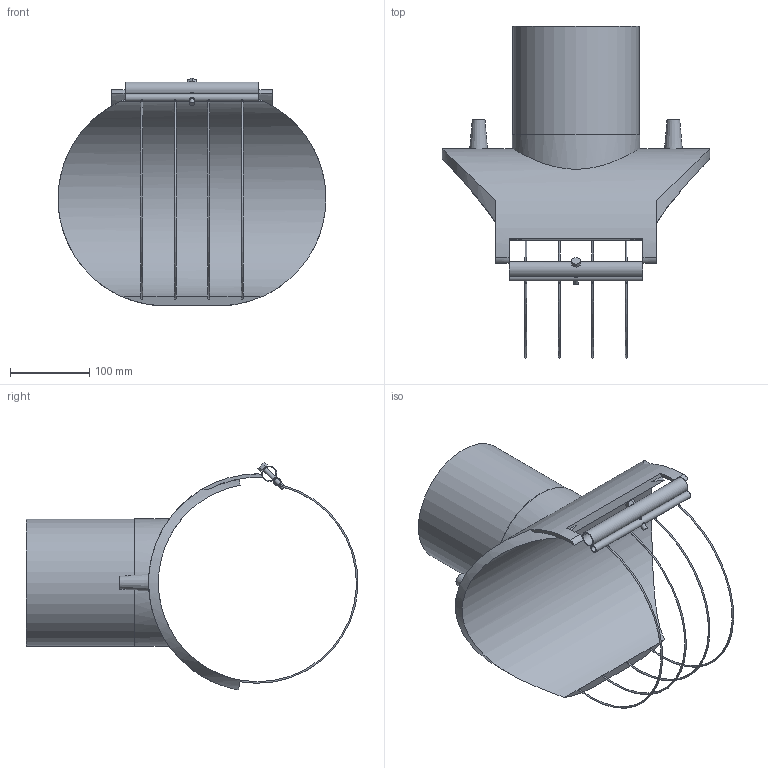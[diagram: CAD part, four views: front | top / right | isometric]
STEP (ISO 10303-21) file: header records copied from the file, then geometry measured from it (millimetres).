
FILE_DESCRIPTION(/* description */ ('Plasson Branch Saddle 250x160'),/* implementation_level */ '2;1');
FILE_NAME(/* name */ 'C:\Dropbox\KIMPROJECTS-Inventor 2019\99-16-3568-Processing\ElectroFusion Fittings\4958X4\4958X4250160T.stp',/* time_stamp */ '2025-05-07T12:15:47+03:00',/* author */ ('KIM'),/* organization */ (''),/* preprocessor_version */ 'ST-DEVELOPER v18.1',/* originating_system */ 'Autodesk Inventor 2021',/* authorisation */ '');
FILE_SCHEMA (('AUTOMOTIVE_DESIGN { 1 0 10303 214 3 1 1 }'));
Length unit declared in the file: millimetre
Products named in the file (1): 4958X4250160T
Bounding box: 338 x 418.86 x 287.33 mm (x, y, z)
Volume: 2368361 mm3; surface area: 419674.3 mm2
Topology: 1 solids, 1 shells, 63 faces, 178 edges, 115 vertices
Faces by surface type: cylinder 28, plane 25, torus 8, cone 2
Full cylindrical faces by diameter (mm): 6 x3, 7.6 x1, 8 x1, 16 x1, 17.2 x1, 131 x1, 160 x1, 161 x1
Entity records: 2957 total; most frequent: CARTESIAN_POINT 1262, ORIENTED_EDGE 360, DIRECTION 331, EDGE_CURVE 180, AXIS2_PLACEMENT_3D 135, VERTEX_POINT 115, EDGE_LOOP 81, CIRCLE 67
